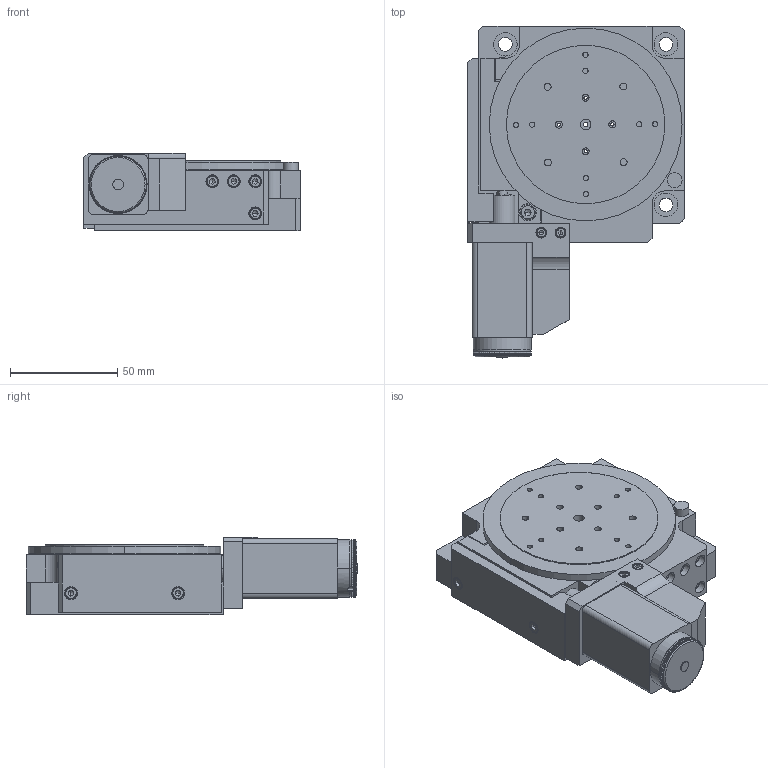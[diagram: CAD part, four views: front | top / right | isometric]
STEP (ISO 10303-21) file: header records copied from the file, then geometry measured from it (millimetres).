
FILE_DESCRIPTION (( 'STEP AP203' ), '1' );
FILE_NAME ('8MR191-28.STEP', '2008-03-17T19:19:37', ( 'STANDA' ), ( '' ), 'SwSTEP 2.0', 'SolidWorks 2003240', '' );
FILE_SCHEMA (( 'CONFIG_CONTROL_DESIGN' ));
Length unit declared in the file: millimetre
Products named in the file (1): 8MR191-28
Bounding box: 101 x 155 x 36 mm (x, y, z)
Volume: 327311.2 mm3; surface area: 63342.3 mm2
Topology: 1 solids, 22 shells, 1270 faces, 3306 edges, 2122 vertices
Faces by surface type: cylinder 641, plane 523, cone 80, bspline 26
Entity records: 40975 total; most frequent: CARTESIAN_POINT 9674, DIRECTION 6678, ORIENTED_EDGE 6528, EDGE_CURVE 3264, AXIS2_PLACEMENT_3D 2567, VERTEX_POINT 2122, VECTOR 1544, LINE 1544
